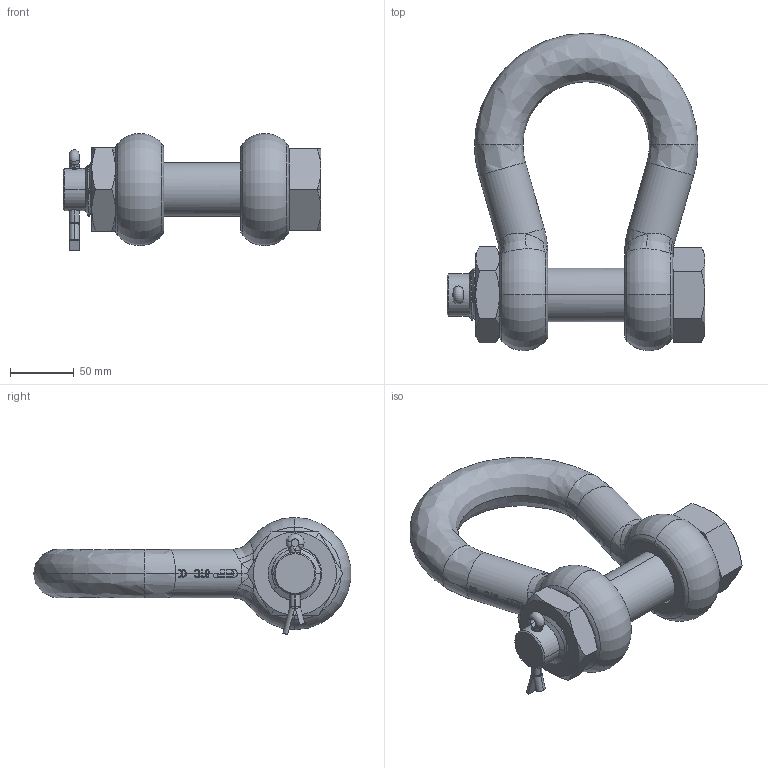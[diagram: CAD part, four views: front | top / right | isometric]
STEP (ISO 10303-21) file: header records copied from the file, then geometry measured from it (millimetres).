
FILE_DESCRIPTION (( 'STEP AP203' ), '1' );
FILE_NAME ('SUGHMB38.STEP', '2009-08-26T14:13:02', ( '.' ), ( '.' ), 'SwSTEP 2.0', 'SolidWorks 2009', '' );
FILE_SCHEMA (( 'CONFIG_CONTROL_DESIGN' ));
Length unit declared in the file: millimetre
Products named in the file (5): SUGHMB38; 30; 30_1; 30_2; 30_3
Assembly tree (4 placements, depth 2):
  SUGHMB38
    30_3
    30_2
    30_1
    30
Bounding box: 202 x 248.67 x 91.86 mm (x, y, z)
Volume: 1073749 mm3; surface area: 138755.8 mm2
Topology: 4 solids, 4 shells, 807 faces, 2229 edges, 1450 vertices
Faces by surface type: bspline 336, plane 313, cylinder 119, cone 28, torus 11
Entity records: 38500 total; most frequent: CARTESIAN_POINT 20603, ORIENTED_EDGE 4442, DIRECTION 2325, EDGE_CURVE 2221, VERTEX_POINT 1450, VECTOR 1049, LINE 1049, EDGE_LOOP 843
